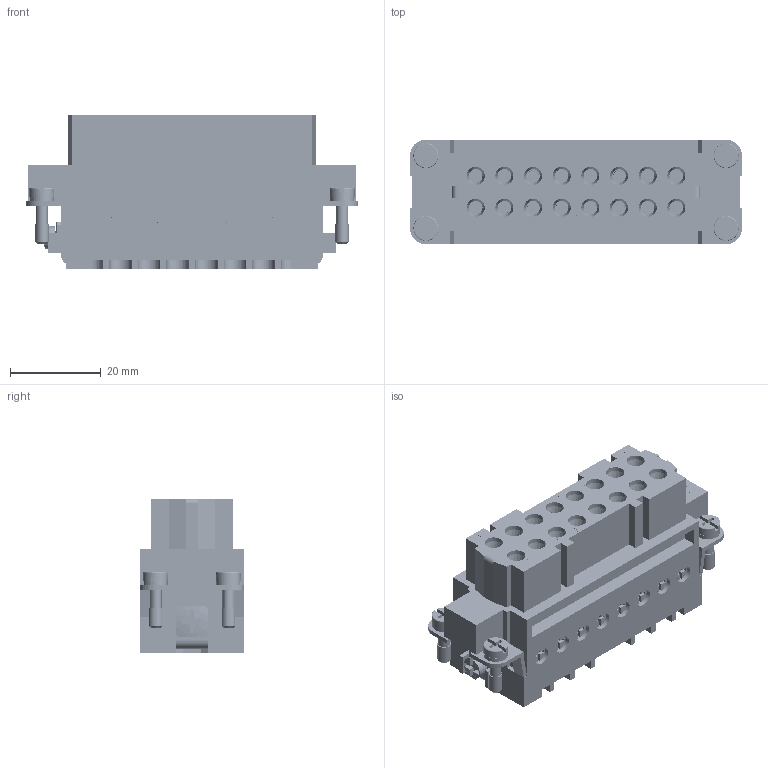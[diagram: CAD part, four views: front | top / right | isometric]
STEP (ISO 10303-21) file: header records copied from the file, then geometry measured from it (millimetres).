
FILE_DESCRIPTION (( 'STEP AP214' ), '1' );
FILE_NAME ('CDAF16N.STEP', '2016-08-02T16:08:08', ( 'richard gronsfeld' ), ( '' ), 'SwSTEP 2.0', 'SolidWorks 2007', '' );
FILE_SCHEMA (( 'AUTOMOTIVE_DESIGN' ));
Length unit declared in the file: millimetre
Products named in the file (1): CDAF16N
Bounding box: 73 x 23 x 34.01 mm (x, y, z)
Surface area: 26395.4 mm2 (no closed solid volume)
Topology: 0 solids, 1931 shells, 2237 faces, 10736 edges, 10443 vertices
Faces by surface type: plane 1175, bspline 578, cylinder 430, cone 44, torus 8, sphere 2
Entity records: 162597 total; most frequent: CARTESIAN_POINT 61557, DIRECTION 12212, ORIENTED_EDGE 11471, EDGE_CURVE 10733, VERTEX_POINT 10443, VECTOR 6494, LINE 6494, B_SPLINE_CURVE_WITH_KNOTS 3040
